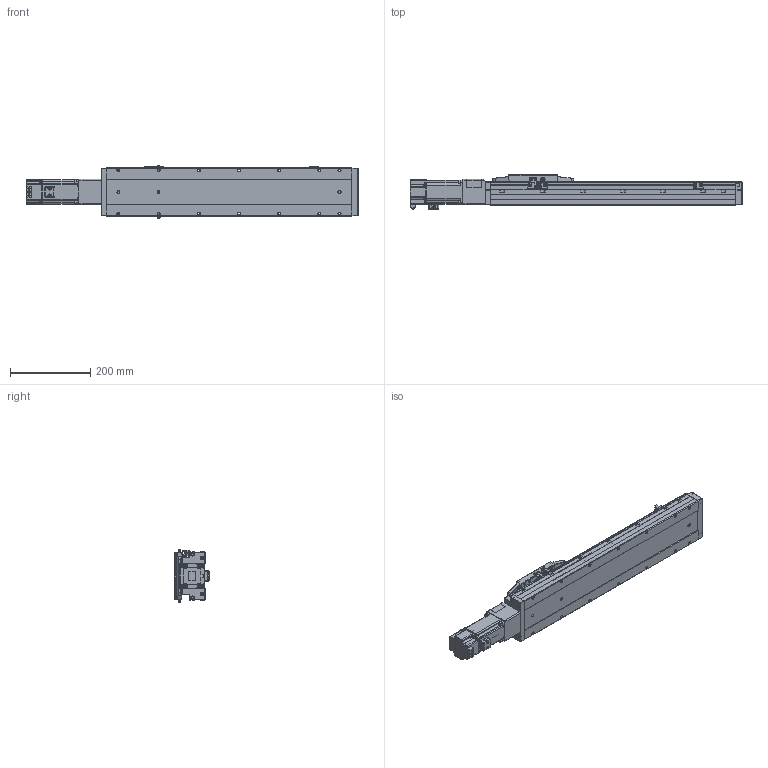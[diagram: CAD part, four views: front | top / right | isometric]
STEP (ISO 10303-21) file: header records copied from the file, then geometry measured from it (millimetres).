
FILE_DESCRIPTION (( 'STEP AP214' ), '1' );
FILE_NAME ('CTH12-L10-S400-BC-C40（简）.STEP', '2023-02-06T05:31:06', ( '' ), ( '' ), 'SwSTEP 2.0', 'SolidWorks 2018', '' );
FILE_SCHEMA (( 'AUTOMOTIVE_DESIGN' ));
Length unit declared in the file: millimetre
Products named in the file (23): CTH12底座-L611简（400行程）; 内六角圆柱头螺钉M3-2; CTH12萇儂釱; CTH12賑怢郪磁; PM-Y45; CTH12_body_3; 蚐郲; CTH12-BL_body_4; CTH12-L10-S400-BC-C40（简）; 嫖萇羲壽郪磁2; 湮賑怢  裔赽-1(CTH12)賑怢; CTH12-BC-06-T40（cth8-bc-06-t40-G）_1; 400W萇儂; 内六角圆柱头螺钉M3-1; CTH12-BC-03_1; CTH12; hex nuts, style 1-grades ab gb_GB_FASTENER_NUT_SNAB1 M3-N; CTH嫖萇羲壽假蚾啣; 内六角圆柱头螺钉M3; CTH12賑怢ㄗ潠ㄘ; M5蹟隊; 嫖萇羲壽郪磁1333; CTH12覜茼え
Assembly tree (43 placements, depth 4):
  CTH12-L10-S400-BC-C40（简）
    CTH12底座-L611简（400行程）
    蚐郲  x2
    CTH12-BL_body_4
    CTH12_body_3
    CTH12賑怢郪磁
      CTH12
        湮賑怢  裔赽-1(CTH12)賑怢
        CTH12賑怢ㄗ潠ㄘ
    CTH12覜茼え
    嫖萇羲壽郪磁2
      CTH嫖萇羲壽假蚾啣
      PM-Y45
      内六角圆柱头螺钉M3-1  x2
      内六角圆柱头螺钉M3-2  x2
      hex nuts, style 1-grades ab gb_GB_FASTENER_NUT_SNAB1 M3-N  x2
    CTH12萇儂釱
      CTH12-BC-03_1
      CTH12-BC-06-T40（cth8-bc-06-t40-G）_1
    嫖萇羲壽郪磁1333  x2
      CTH嫖萇羲壽假蚾啣
      PM-Y45
      内六角圆柱头螺钉M3-2
      内六角圆柱头螺钉M3-1
      hex nuts, style 1-grades ab gb_GB_FASTENER_NUT_SNAB1 M3-N
    内六角圆柱头螺钉M3  x6
    400W萇儂
    M5蹟隊  x4
Bounding box: 825.8 x 86.5 x 131.52 mm (x, y, z)
Volume: 4571537.5 mm3; surface area: 516302.7 mm2
Topology: 45 solids, 47 shells, 2837 faces, 7027 edges, 4415 vertices
Faces by surface type: plane 1408, cylinder 860, cone 311, bspline 130, torus 124, sphere 4
Entity records: 87592 total; most frequent: CARTESIAN_POINT 29990, ORIENTED_EDGE 11156, DIRECTION 10873, EDGE_CURVE 5578, AXIS2_PLACEMENT_3D 3813, VERTEX_POINT 3519, VECTOR 3247, LINE 3247
